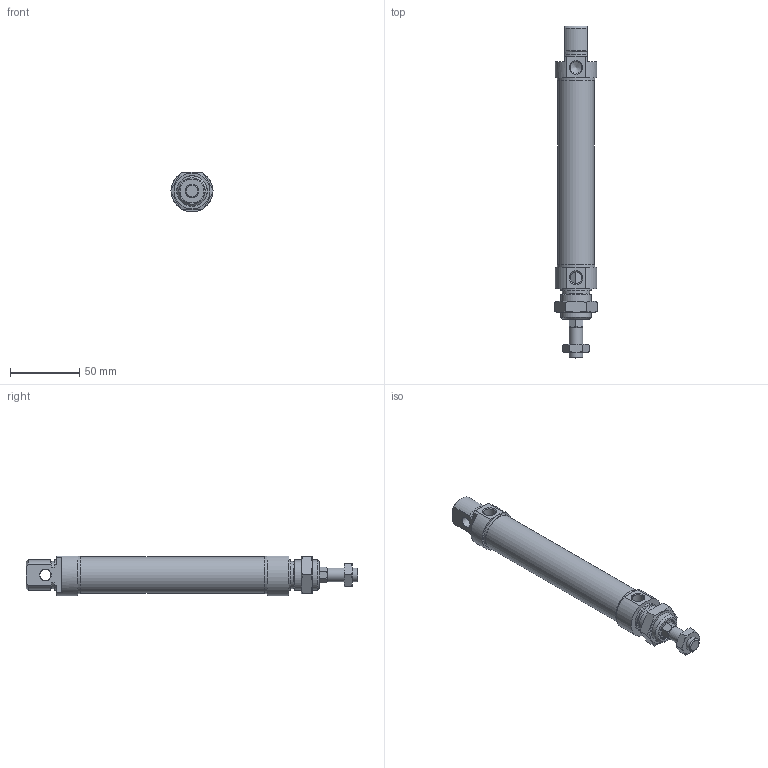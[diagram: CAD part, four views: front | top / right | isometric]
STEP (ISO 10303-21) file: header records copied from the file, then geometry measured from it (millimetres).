
FILE_DESCRIPTION(/* description */ ('Unknown'),/* implementation_level */ '2;1');
FILE_NAME(/* name */ 'RIMO 25_100',/* time_stamp */ '2024-09-02T11:39:01+02:00',/* author */ ('Unknown'),/* organization */ ('Unknown'),/* preprocessor_version */ 'ST-DEVELOPER v16.7',/* originating_system */ 'Solid Edge',/* authorisation */ 'Unknown');
FILE_SCHEMA (('AUTOMOTIVE_DESIGN {1 0 10303 214 3 1 1}'));
Length unit declared in the file: millimetre
Products named in the file (7): RIMO 25_100; Profilrohr; Kit_2; Kolbenstange; Kit_1; Mutter_1; Mutter_2
Assembly tree (6 placements, depth 2):
  RIMO 25_100
    Profilrohr
    Kit_2
    Kolbenstange
    Kit_1
    Mutter_1
    Mutter_2
Bounding box: 31.18 x 240 x 28.45 mm (x, y, z)
Volume: 73153.3 mm3; surface area: 45427.1 mm2
Topology: 6 solids, 7 shells, 169 faces, 408 edges, 261 vertices
Faces by surface type: plane 79, cone 43, cylinder 36, torus 11
Full cylindrical faces by diameter (mm): 8 x1, 8.56 x2, 8.566 x2, 8.647 x1, 10 x1, 14 x1, 14.1 x1, 16.1 x1, 16.2 x1, 19.7 x1, 20.376 x1, 22 x2, 25 x2, 26.5 x1, 27 x2
Entity records: 5850 total; most frequent: CARTESIAN_POINT 968, DIRECTION 751, ORIENTED_EDGE 700, EDGE_CURVE 350, AXIS2_PLACEMENT_3D 309, VERTEX_POINT 250, FACE_BOUND 238, EDGE_LOOP 237
